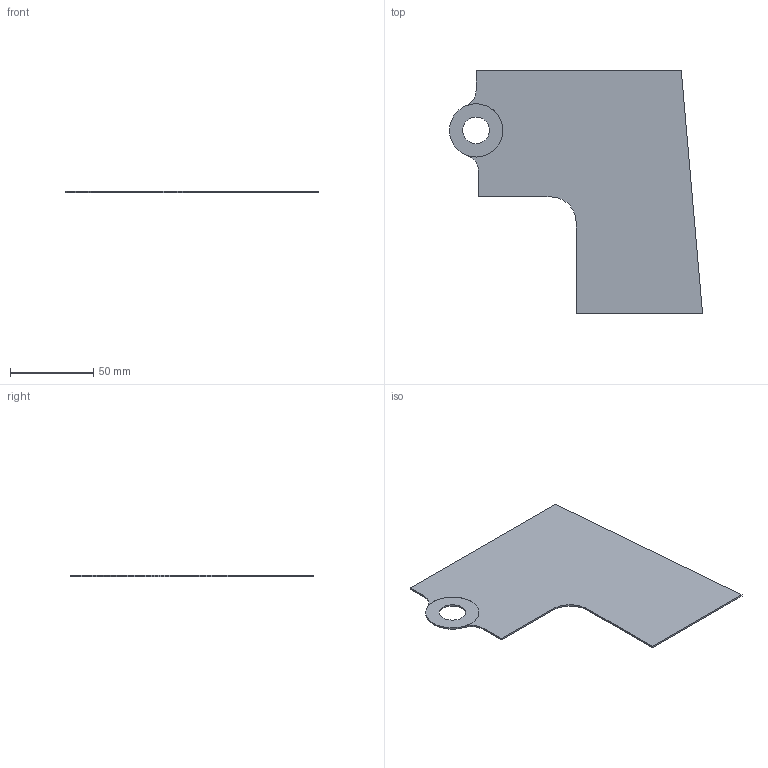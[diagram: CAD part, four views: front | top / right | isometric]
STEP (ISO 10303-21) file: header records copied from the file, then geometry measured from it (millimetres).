
FILE_DESCRIPTION (( 'STEP AP203' ), '1' );
FILE_NAME ('EP_AngleBeacket.STEP', '2016-02-16T23:35:22', ( '' ), ( '' ), 'SwSTEP 2.0', 'SolidWorks 2016', '' );
FILE_SCHEMA (( 'CONFIG_CONTROL_DESIGN' ));
Length unit declared in the file: millimetre
Products named in the file (1): EP_AngleBeacket
Bounding box: 152 x 146 x 1 mm (x, y, z)
Volume: 14960.2 mm3; surface area: 30652.6 mm2
Topology: 2 solids, 2 shells, 20 faces, 48 edges, 32 vertices
Faces by surface type: plane 11, cylinder 9
Entity records: 669 total; most frequent: DIRECTION 108, CARTESIAN_POINT 101, ORIENTED_EDGE 96, EDGE_CURVE 48, AXIS2_PLACEMENT_3D 39, VERTEX_POINT 32, VECTOR 30, LINE 30
